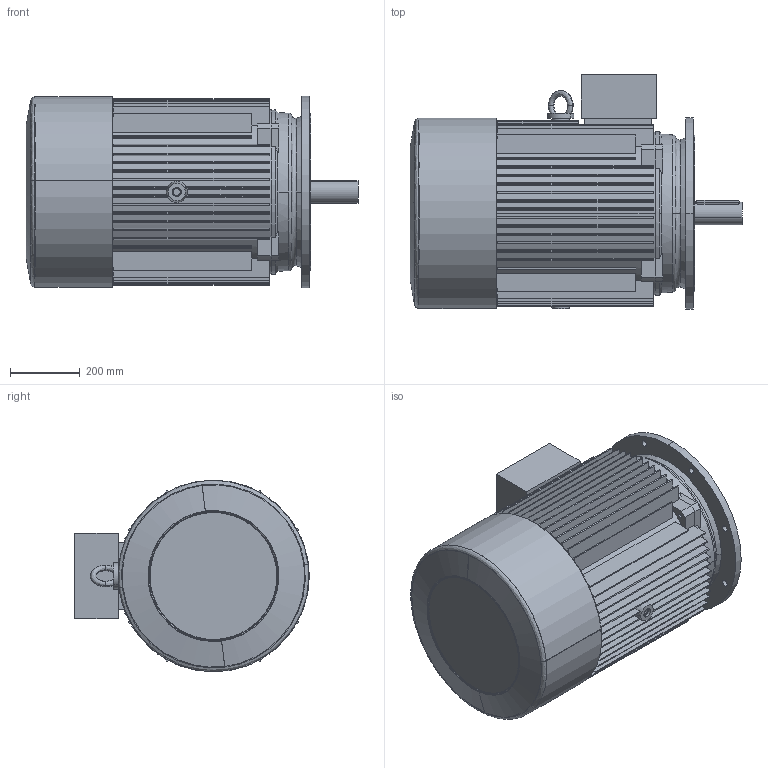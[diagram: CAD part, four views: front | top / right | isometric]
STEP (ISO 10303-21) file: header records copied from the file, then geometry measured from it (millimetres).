
FILE_DESCRIPTION (( 'STEP AP203' ), '1' );
FILE_NAME ('M3-280S-2p-FF-B5.STEP', '2019-07-09T10:24:53', ( '' ), ( '' ), 'SwSTEP 2.0', 'SolidWorks 2012', '' );
FILE_SCHEMA (( 'CONFIG_CONTROL_DESIGN' ));
Length unit declared in the file: millimetre
Products named in the file (8): Y2-280S+ｷﾎｨB5_-ｼ+､; Y2-280-2ﾀiﾍ_-ｼ+､; Y2-250-4.6.8ú¼280-2Ã¦Íß¦ð-Ô©Ã_-¼+¤; M3-280S-2p-FF-B5; Y2-280ｦｾﾂ-ｩﾃ_-ｼ+､; 280ﾁｧ+ﾀ_-ｼ+､; Y2-280S.M-2ﾍﾟ_-ｼ+､; Y2-280-2-ｦﾈﾁﾂ-ｩﾃ_-ｼ+､
Assembly tree (7 placements, depth 2):
  M3-280S-2p-FF-B5
    Y2-280S+ｷﾎｨB5_-ｼ+､
    Y2-250-4.6.8ú¼280-2Ã¦Íß¦ð-Ô©Ã_-¼+¤
    Y2-280-2ﾀiﾍ_-ｼ+､
    Y2-280-2-ｦﾈﾁﾂ-ｩﾃ_-ｼ+､
    Y2-280ｦｾﾂ-ｩﾃ_-ｼ+､
    280ﾁｧ+ﾀ_-ｼ+､
    Y2-280S.M-2ﾍﾟ_-ｼ+､
Bounding box: 952.53 x 673 x 550 mm (x, y, z)
Volume: 33630790.7 mm3; surface area: 6508018.4 mm2
Topology: 7 solids, 7 shells, 744 faces, 1965 edges, 1303 vertices
Faces by surface type: plane 402, cylinder 277, cone 39, bspline 26
Entity records: 26154 total; most frequent: CARTESIAN_POINT 6219, DIRECTION 4088, ORIENTED_EDGE 3930, EDGE_CURVE 1965, AXIS2_PLACEMENT_3D 1490, VERTEX_POINT 1303, VECTOR 1108, LINE 1108
